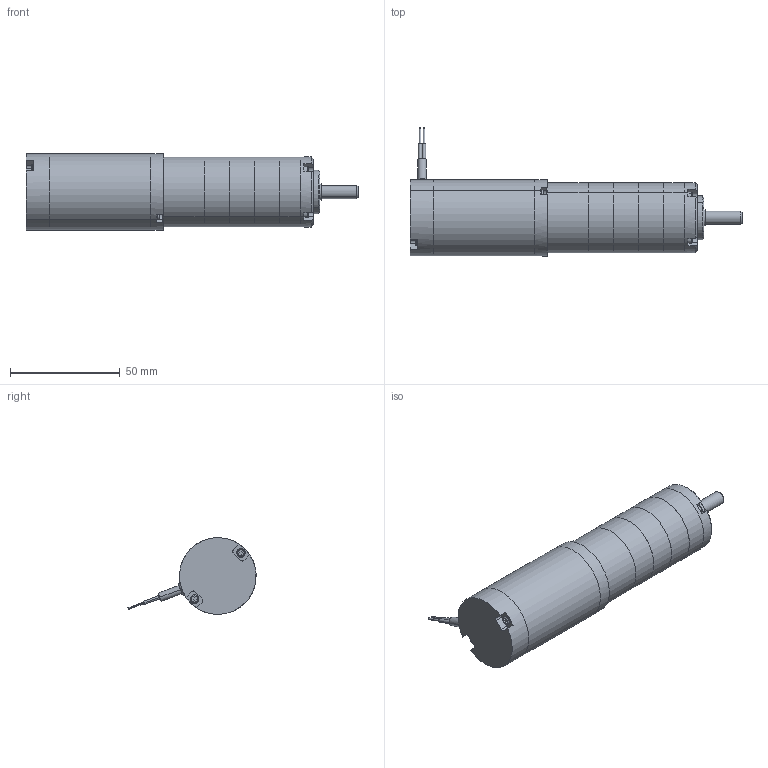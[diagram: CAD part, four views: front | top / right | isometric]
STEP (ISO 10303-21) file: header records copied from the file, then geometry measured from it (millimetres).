
FILE_DESCRIPTION (( 'STEP AP203' ), '1' );
FILE_NAME ('s14247gp4.step', '2018-12-07T19:51:57', ( '' ), ( '' ), 'SwSTEP 2.0', 'SolidWorks 2017', '' );
FILE_SCHEMA (( 'CONFIG_CONTROL_DESIGN' ));
Length unit declared in the file: inch
Products named in the file (1): s14247gp4
Bounding box: 151.41 x 58.45 x 34.91 mm (x, y, z)
Volume: 114052.9 mm3; surface area: 27448 mm2
Topology: 13 solids, 13 shells, 326 faces, 780 edges, 498 vertices
Faces by surface type: plane 171, cylinder 103, torus 33, cone 19
Entity records: 9565 total; most frequent: CARTESIAN_POINT 1701, DIRECTION 1696, ORIENTED_EDGE 1544, EDGE_CURVE 772, AXIS2_PLACEMENT_3D 613, VERTEX_POINT 498, LINE 470, VECTOR 470
